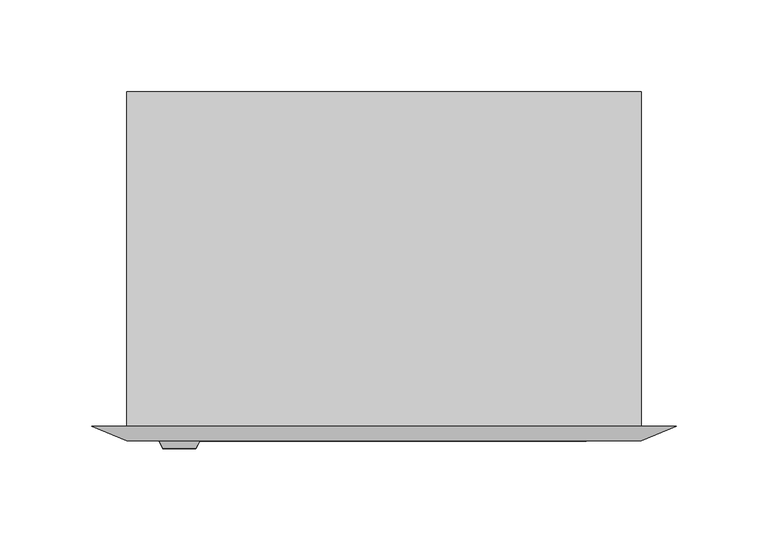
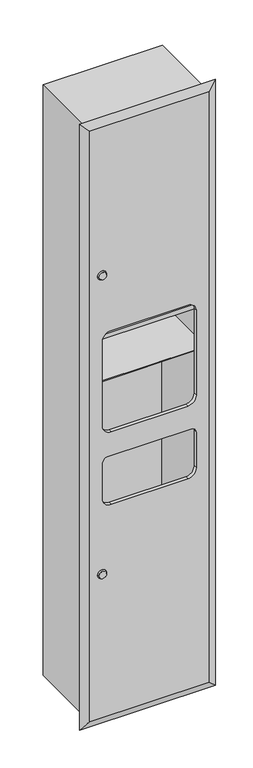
"""IFC4 building model written with IfcOpenShell, lengths in millimetres: proxy geometry, Hand Dryer_3 In 1_Metlam_Eclipse_Recessed : 318w x 190d x 1500h (ML_ECLIPSE_3N1REC_D)."""

from ifc_helpers import new_model, si_unit, frame, origin, place, context, project, spatial, polyline, circle_curve, source, transform, mapped, element, save
from ifc_brep_helpers import plane_surface, revolved_surface, advanced_brep


def specialty_equipment_d3429dd2(model_context):
    return source(origin(), model_context, "Body", "AdvancedBrep", [
        advanced_brep(
        [(-136.0, -182.0, 1100.0), (-136.0, -104.0, 1100.0), (136.0, -104.0, 1100.0), (136.0, -182.0, 1100.0), (138.0, -182.0, 1100.0), (138.0, -102.0, 1100.0), (-138.0, -102.0, 1100.0), (-138.0, -182.0, 1100.0), (-138.0, -102.0, 950.0), (138.0, -102.0, 950.0), (138.0, -182.0, 950.0), (110.0, -182.0, 950.0), (-110.0, -182.0, 950.0), (-138.0, -182.0, 950.0), (-110.0, -122.0, 950.0), (-110.0, -162.0, 950.0), (110.0, -162.0, 950.0), (110.0, -122.0, 950.0), (-136.0, -182.0, 960.0), (-136.0, -104.0, 960.0), (136.0, -104.0, 960.0), (136.0, -182.0, 960.0), (138.0, -102.0, 960.0), (-138.0, -102.0, 960.0), (-107.3205081, -182.0, 960.0), (107.3205081, -182.0, 960.0), (-110.0, -122.0, 960.0), (110.0, -122.0, 960.0), (110.0, -162.0, 960.0), (-110.0, -162.0, 960.0), (-140.0, 0.0, 1481.0), (140.0, 0.0, 1481.0), (140.0, 0.0, 19.0), (-140.0, 0.0, 19.0), (120.0730198, 0.0, 870.0269416), (130.0730198, 0.0, 870.0269416), (-140.0, -2.0, 19.0), (-140.0, -182.0, 19.0), (-140.0, -182.0, 845.0), (-140.0, -182.0, 847.0), (-140.0, -182.0, 1481.0), (-140.0, -2.0, 1481.0), (140.0, -2.0, 19.0), (140.0, -182.0, 19.0), (140.0, -2.0, 1481.0), (140.0, -182.0, 1481.0), (140.0, -182.0, 847.0), (140.0, -182.0, 845.0), (138.0, -182.0, 1479.0), (-138.0, -182.0, 1479.0), (-138.0, -2.0, 1479.0), (138.0, -2.0, 1479.0), (138.0, -2.0, 847.0), (138.0, -182.0, 847.0), (138.0, -2.0, 21.0), (138.0, -182.0, 21.0), (138.0, -182.0, 845.0), (138.0, -2.0, 845.0), (-138.0, -182.0, 21.0), (-138.0, -2.0, 21.0), (-138.0, -2.0, 845.0), (-138.0, -182.0, 845.0), (-138.0, -182.0, 847.0), (-138.0, -2.0, 847.0), (130.0730198, -2.0, 870.0269416), (120.0730198, -2.0, 870.0269416), (140.0, -190.0, 1481.0), (-140.0, -190.0, 1481.0), (-140.0, -190.0, 19.0), (140.0, -190.0, 19.0), (-110.0, -190.0, 950.0), (-90.0, -190.0, 970.0), (90.0, -190.0, 970.0), (110.0, -190.0, 950.0), (110.0, -190.0, 740.0), (90.0, -190.0, 720.0), (-90.0, -190.0, 720.0), (-110.0, -190.0, 740.0), (-110.0, -190.0, 648.0), (-98.0, -190.0, 660.0), (98.0, -190.0, 660.0), (110.0, -190.0, 648.0), (110.0, -190.0, 560.0), (90.0, -190.0, 540.0), (-90.0, -190.0, 540.0), (-110.0, -190.0, 560.0), (110.0, -182.0, 847.0), (-110.0, -182.0, 847.0), (159.0, -182.0, 1500.0), (159.0, -182.0, 0.0), (-159.0, -182.0, 0.0), (-159.0, -182.0, 1500.0), (-110.0, -182.0, 740.0), (-90.0, -182.0, 720.0), (90.0, -182.0, 720.0), (110.0, -182.0, 740.0), (110.0, -182.0, 845.0), (-110.0, -182.0, 845.0), (-98.0, -182.0, 660.0), (-110.0, -182.0, 648.0), (-110.0, -182.0, 560.0), (-90.0, -182.0, 540.0), (90.0, -182.0, 540.0), (110.0, -182.0, 560.0), (110.0, -182.0, 648.0), (98.0, -182.0, 660.0), (90.0, -182.0, 970.0), (-90.0, -182.0, 970.0)],
        [
            (0, 1),
            (1, 2),
            (2, 3),
            (3, 4),
            (4, 5),
            (5, 6),
            (6, 7),
            (7, 0),
            (8, 9),
            (9, 10),
            (10, 11),
            (11, 12),
            (12, 13),
            (13, 8),
            (14, 15),
            (15, 16),
            (16, 17),
            (17, 14),
            (0, 18),
            (18, 19),
            (19, 1),
            (19, 20),
            (20, 2),
            (20, 21),
            (21, 3),
            (5, 22),
            (22, 9),
            (8, 23),
            (23, 6),
            (24, 25),
            (25, 21),
            (18, 24),
            (26, 27),
            (27, 28),
            (28, 29),
            (29, 26),
            (11, 25, circle_curve(frame((90.0, -182.0, 950.0), z_axis=(0.0, -1.0, 0.0), x_axis=(1.0, 0.0, 0.0)), 20.0)),
            (24, 12, circle_curve(frame((-90.0, -182.0, 950.0), z_axis=(0.0, -1.0, 0.0), x_axis=(1.0, 0.0, 0.0)), 20.0)),
            (26, 14),
            (17, 27),
            (16, 28),
            (15, 29),
            (30, 31),
            (31, 32),
            (32, 33),
            (33, 30),
            (34, 35, circle_curve(frame((125.0730198, 0.0, 870.0269416), z_axis=(0.0, -1.0, 0.0), x_axis=(1.0, 0.0, 0.0)), 5.0)),
            (35, 34, circle_curve(frame((125.0730198, 0.0, 870.0269416), z_axis=(0.0, -1.0, 0.0), x_axis=(1.0, 0.0, 0.0)), 5.0)),
            (33, 36),
            (36, 37),
            (37, 38),
            (38, 39),
            (39, 40),
            (40, 41),
            (41, 30),
            (32, 42),
            (42, 43),
            (43, 37),
            (31, 44),
            (44, 45),
            (45, 46),
            (46, 47),
            (47, 43),
            (40, 45),
            (48, 49),
            (49, 50),
            (50, 51),
            (51, 48),
            (4, 48),
            (51, 52),
            (52, 53),
            (53, 10),
            (54, 55),
            (55, 56),
            (56, 57),
            (57, 54),
            (58, 55),
            (54, 59),
            (59, 58),
            (59, 60),
            (60, 61),
            (61, 58),
            (49, 7),
            (13, 62),
            (62, 63),
            (63, 50),
            (63, 52),
            (64, 65, circle_curve(frame((125.0730198, -2.0, 870.0269416), z_axis=(0.0, 1.0, 0.0), x_axis=(1.0, 0.0, 0.0)), 5.0)),
            (65, 64, circle_curve(frame((125.0730198, -2.0, 870.0269416), z_axis=(0.0, 1.0, 0.0), x_axis=(1.0, 0.0, 0.0)), 5.0)),
            (57, 60),
            (66, 67),
            (67, 68),
            (68, 69),
            (69, 66),
            (70, 71, circle_curve(frame((-90.0, -190.0, 950.0), z_axis=(0.0, 1.0, 0.0), x_axis=(1.0, 0.0, 0.0)), 20.0)),
            (71, 72),
            (72, 73, circle_curve(frame((90.0, -190.0, 950.0), z_axis=(0.0, 1.0, 0.0), x_axis=(1.0, 0.0, 0.0)), 20.0)),
            (73, 74),
            (74, 75, circle_curve(frame((90.0, -190.0, 740.0), z_axis=(0.0, 1.0, 0.0), x_axis=(1.0, 0.0, 0.0)), 20.0)),
            (75, 76),
            (76, 77, circle_curve(frame((-90.0, -190.0, 740.0), z_axis=(0.0, 1.0, 0.0), x_axis=(1.0, 0.0, 0.0)), 20.0)),
            (77, 70),
            (78, 79, circle_curve(frame((-98.0, -190.0, 648.0), z_axis=(0.0, 1.0, 0.0), x_axis=(1.0, 0.0, 0.0)), 12.0)),
            (79, 80),
            (80, 81, circle_curve(frame((98.0, -190.0, 648.0), z_axis=(0.0, 1.0, 0.0), x_axis=(1.0, 0.0, 0.0)), 12.0)),
            (81, 82),
            (82, 83, circle_curve(frame((90.0, -190.0, 560.0), z_axis=(0.0, 1.0, 0.0), x_axis=(1.0, 0.0, 0.0)), 20.0)),
            (83, 84),
            (84, 85, circle_curve(frame((-90.0, -190.0, 560.0), z_axis=(0.0, 1.0, 0.0), x_axis=(1.0, 0.0, 0.0)), 20.0)),
            (85, 78),
            (53, 86),
            (86, 11),
            (12, 87),
            (87, 62),
            (88, 89),
            (89, 90),
            (90, 91),
            (91, 88),
            (92, 93, circle_curve(frame((-90.0, -182.0, 740.0), z_axis=(0.0, -1.0, 0.0), x_axis=(1.0, 0.0, 0.0)), 20.0)),
            (93, 94),
            (94, 95, circle_curve(frame((90.0, -182.0, 740.0), z_axis=(0.0, -1.0, 0.0), x_axis=(1.0, 0.0, 0.0)), 20.0)),
            (95, 96),
            (96, 56),
            (61, 97),
            (97, 92),
            (98, 99, circle_curve(frame((-98.0, -182.0, 648.0), z_axis=(0.0, -1.0, 0.0), x_axis=(1.0, 0.0, 0.0)), 12.0)),
            (99, 100),
            (100, 101, circle_curve(frame((-90.0, -182.0, 560.0), z_axis=(0.0, -1.0, 0.0), x_axis=(1.0, 0.0, 0.0)), 20.0)),
            (101, 102),
            (102, 103, circle_curve(frame((90.0, -182.0, 560.0), z_axis=(0.0, -1.0, 0.0), x_axis=(1.0, 0.0, 0.0)), 20.0)),
            (103, 104),
            (104, 105, circle_curve(frame((98.0, -182.0, 648.0), z_axis=(0.0, -1.0, 0.0), x_axis=(1.0, 0.0, 0.0)), 12.0)),
            (105, 98),
            (106, 107),
            (107, 24, circle_curve(frame((-90.0, -182.0, 950.0), z_axis=(0.0, -1.0, 0.0), x_axis=(1.0, 0.0, 0.0)), 20.0)),
            (25, 106, circle_curve(frame((90.0, -182.0, 950.0), z_axis=(0.0, -1.0, 0.0), x_axis=(1.0, 0.0, 0.0)), 20.0)),
            (66, 88),
            (91, 67),
            (90, 68),
            (89, 69),
            (70, 12),
            (107, 71),
            (77, 92),
            (97, 87),
            (76, 93),
            (75, 94),
            (74, 95),
            (73, 11),
            (86, 96),
            (72, 106),
            (78, 99),
            (98, 79),
            (85, 100),
            (84, 101),
            (83, 102),
            (82, 103),
            (81, 104),
            (80, 105),
            (97, 96),
            (86, 87),
            (64, 35),
            (34, 65),
        ],
        [
            plane_surface(frame((-136.0, -182.0, 1100.0), z_axis=(0.0, 0.0, 1.0), x_axis=(0.0, 1.0, 0.0))),
            plane_surface(frame((-136.0, -182.0, 950.0), z_axis=(0.0, 0.0, -1.0), x_axis=(0.0, -1.0, 0.0))),
            plane_surface(frame((-136.0, -182.0, 1100.0), z_axis=(1.0, 0.0, 0.0), x_axis=(0.0, 0.0, -1.0))),
            plane_surface(frame((-136.0, -104.0, 1100.0), z_axis=(0.0, -1.0, 0.0), x_axis=(0.0, 0.0, -1.0))),
            plane_surface(frame((136.0, -104.0, 1100.0), z_axis=(-1.0, 0.0, 0.0), x_axis=(0.0, 0.0, -1.0))),
            plane_surface(frame((138.0, -102.0, 1100.0), z_axis=(0.0, 1.0, 0.0), x_axis=(0.0, 0.0, -1.0))),
            plane_surface(frame((-138.0, -182.0, 960.0), z_axis=(0.0, 0.0, 1.0), x_axis=(0.0, -1.0, 0.0))),
            plane_surface(frame((-138.0, -182.0, 960.0), z_axis=(0.0, -1.0, 0.0), x_axis=(0.0, 0.0, -1.0))),
            plane_surface(frame((-110.0, -122.0, 960.0), z_axis=(0.0, -1.0, 0.0), x_axis=(0.0, 0.0, -1.0))),
            plane_surface(frame((110.0, -122.0, 960.0), z_axis=(-1.0, 0.0, 0.0), x_axis=(0.0, 0.0, -1.0))),
            plane_surface(frame((110.0, -162.0, 960.0), z_axis=(0.0, 1.0, 0.0), x_axis=(0.0, 0.0, -1.0))),
            plane_surface(frame((-110.0, -162.0, 960.0), z_axis=(1.0, 0.0, 0.0), x_axis=(0.0, 0.0, -1.0))),
            plane_surface(frame((-140.0, 0.0, 19.0), z_axis=(0.0, 1.0, 0.0), x_axis=(0.0, 0.0, 1.0))),
            plane_surface(frame((-140.0, -182.0, 1481.0), z_axis=(-1.0, 0.0, 0.0), x_axis=(0.0, 1.0, 0.0))),
            plane_surface(frame((-140.0, -182.0, 19.0), z_axis=(0.0, 0.0, -1.0), x_axis=(0.0, 1.0, 0.0))),
            plane_surface(frame((140.0, -182.0, 19.0), z_axis=(1.0, 0.0, 0.0), x_axis=(0.0, 1.0, 0.0))),
            plane_surface(frame((140.0, -182.0, 1481.0), z_axis=(0.0, 0.0, 1.0), x_axis=(0.0, 1.0, 0.0))),
            plane_surface(frame((-138.0, -182.0, 1479.0), z_axis=(0.0, 0.0, -1.0), x_axis=(0.0, 1.0, 0.0))),
            plane_surface(frame((138.0, -182.0, 1479.0), z_axis=(-1.0, 0.0, 0.0), x_axis=(0.0, 1.0, 0.0))),
            plane_surface(frame((138.0, -182.0, 21.0), z_axis=(0.0, 0.0, 1.0), x_axis=(0.0, 1.0, 0.0))),
            plane_surface(frame((-138.0, -182.0, 21.0), z_axis=(1.0, 0.0, 0.0), x_axis=(0.0, 1.0, 0.0))),
            plane_surface(frame((-140.0, -2.0, 19.0), z_axis=(0.0, -1.0, 0.0), x_axis=(0.0, 0.0, -1.0))),
            plane_surface(frame((0.0, -190.0, 750.0), z_axis=(0.0, -1.0, 0.0), x_axis=(-1.0, 0.0, 0.0))),
            plane_surface(frame((0.0, -182.0, 750.0), z_axis=(0.0, 1.0, 0.0), x_axis=(-1.0, 0.0, 0.0))),
            plane_surface(frame((0.0, -182.0, 1500.0), z_axis=(0.0, -0.9216353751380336, 0.38805700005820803), x_axis=(-1.0, 0.0, 0.0))),
            plane_surface(frame((-159.0, -182.0, 750.0), z_axis=(-0.38805700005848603, -0.9216353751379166, 0.0), x_axis=(0.0, 0.0, -1.0))),
            plane_surface(frame((0.0, -182.0, 0.0), z_axis=(0.0, -0.9216353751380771, -0.38805700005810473), x_axis=(1.0, 0.0, 0.0))),
            plane_surface(frame((159.0, -182.0, 750.0), z_axis=(0.38805700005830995, -0.9216353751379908, 0.0), x_axis=(0.0, 0.0, 1.0))),
            revolved_surface(polyline([(-70.0, -190.0, 950.0), (-70.0, -182.0, 950.0)]), (-90.0, -182.0, 950.0), (0.0, -1.0, 0.0)),
            plane_surface(frame((-110.0, -190.0, 950.0), z_axis=(1.0, 0.0, 0.0), x_axis=(0.0, 1.0, 0.0))),
            revolved_surface(polyline([(-70.0, -190.0, 740.0), (-70.0, -182.0, 740.0)]), (-90.0, -182.0, 740.0), (0.0, -1.0, 0.0)),
            plane_surface(frame((-90.0, -190.0, 720.0), z_axis=(0.0, 0.0, 1.0), x_axis=(0.0, 1.0, 0.0))),
            revolved_surface(polyline([(110.0, -190.0, 740.0), (110.0, -182.0, 740.0)]), (90.0, -182.0, 740.0), (0.0, -1.0, 0.0)),
            plane_surface(frame((110.0, -190.0, 740.0), z_axis=(-1.0, 0.0, 0.0), x_axis=(0.0, 1.0, 0.0))),
            revolved_surface(polyline([(110.0, -190.0, 950.0), (110.0, -182.0, 950.0)]), (90.0, -182.0, 950.0), (0.0, -1.0, 0.0)),
            plane_surface(frame((90.0, -190.0, 970.0), z_axis=(0.0, 0.0, -1.0), x_axis=(0.0, 1.0, 0.0))),
            revolved_surface(polyline([(-86.0, -190.0, 648.0), (-86.0, -182.0, 648.0)]), (-98.0, -182.0, 648.0), (0.0, -1.0, 0.0)),
            plane_surface(frame((-110.0, -190.0, 648.0), z_axis=(1.0, 0.0, 0.0), x_axis=(0.0, 1.0, 0.0))),
            revolved_surface(polyline([(-70.0, -190.0, 560.0), (-70.0, -182.0, 560.0)]), (-90.0, -182.0, 560.0), (0.0, -1.0, 0.0)),
            plane_surface(frame((-90.0, -190.0, 540.0), z_axis=(0.0, 0.0, 1.0), x_axis=(0.0, 1.0, 0.0))),
            revolved_surface(polyline([(110.0, -190.0, 560.0), (110.0, -182.0, 560.0)]), (90.0, -182.0, 560.0), (0.0, -1.0, 0.0)),
            plane_surface(frame((110.0, -190.0, 560.0), z_axis=(-1.0, 0.0, 0.0), x_axis=(0.0, 1.0, 0.0))),
            revolved_surface(polyline([(110.0, -190.0, 648.0), (110.0, -182.0, 648.0)]), (98.0, -182.0, 648.0), (0.0, -1.0, 0.0)),
            plane_surface(frame((98.0, -190.0, 660.0), z_axis=(0.0, 0.0, -1.0), x_axis=(0.0, 1.0, 0.0))),
            plane_surface(frame((-140.0, -182.0, 845.0), z_axis=(0.0, -1.0, 0.0), x_axis=(0.0, 0.0, -1.0))),
            plane_surface(frame((-140.0, -182.0, 845.0), z_axis=(0.0, 0.0, -1.0), x_axis=(0.0, 1.0, 0.0))),
            plane_surface(frame((140.0, -182.0, 847.0), z_axis=(0.0, 0.0, 1.0), x_axis=(0.0, 1.0, 0.0))),
            revolved_surface(polyline([(130.0730198, -2.0, 870.0269416), (130.0730198, 0.0, 870.0269416)]), (125.0730198, 0.0, 870.0269416), (0.0, -1.0, 0.0)),
        ],
        [
            (0, [[1, 2, 3, 4, 5, 6, 7, 8]]),
            (1, [[9, 10, 11, 12, 13, 14], [15, 16, 17, 18]]),
            (2, [[-1, 19, 20, 21]]),
            (3, [[-2, -21, 22, 23]]),
            (4, [[-3, -23, 24, 25]]),
            (5, [[-6, 26, 27, -9, 28, 29]]),
            (6, [[30, 31, -24, -22, -20, 32], [33, 34, 35, 36]]),
            (7, [[-12, 37, -30, 38]]),
            (8, [[-33, 39, -18, 40]]),
            (9, [[-34, -40, -17, 41]]),
            (10, [[-35, -41, -16, 42]]),
            (11, [[-36, -42, -15, -39]]),
            (12, [[43, 44, 45, 46], [47, 48]]),
            (13, [[-46, 49, 50, 51, 52, 53, 54, 55]]),
            (14, [[-45, 56, 57, 58, -50, -49]]),
            (15, [[-44, 59, 60, 61, 62, 63, -57, -56]]),
            (16, [[-43, -55, -54, 64, -60, -59]]),
            (17, [[65, 66, 67, 68]]),
            (18, [[69, -68, 70, 71, 72, -10, -27, -26, -5]]),
            (18, [[73, 74, 75, 76]]),
            (19, [[77, -73, 78, 79]]),
            (20, [[-79, 80, 81, 82]]),
            (20, [[83, -7, -29, -28, -14, 84, 85, 86, -66]]),
            (21, [[-67, -86, 87, -70], [88, 89]]),
            (21, [[-78, -76, 90, -80]]),
            (22, [[91, 92, 93, 94], [95, 96, 97, 98, 99, 100, 101, 102], [103, 104, 105, 106, 107, 108, 109, 110]]),
            (23, [[-11, -72, 111, 112]]),
            (23, [[-13, 113, 114, -84]]),
            (23, [[115, 116, 117, 118], [-58, -63, -62, -61, -64, -53, -52, -51]]),
            (23, [[119, 120, 121, 122, 123, -74, -77, -82, 124, 125], [126, 127, 128, 129, 130, 131, 132, 133]]),
            (23, [[134, 135, -32, -19, -8, -83, -65, -69, -4, -25, -31, 136]]),
            (24, [[-91, 137, -118, 138]]),
            (25, [[-92, -138, -117, 139]]),
            (26, [[-93, -139, -116, 140]]),
            (27, [[-94, -140, -115, -137]]),
            (28, [[141, -38, -135, 142, -95]]),
            (29, [[-141, -102, 143, -125, 144, -113]]),
            (30, [[-143, -101, 145, -119]]),
            (31, [[-145, -100, 146, -120]]),
            (32, [[-146, -99, 147, -121]]),
            (33, [[-147, -98, 148, -112, 149, -122]]),
            (34, [[-148, -97, 150, -136, -37]]),
            (35, [[-142, -134, -150, -96]]),
            (36, [[151, -126, 152, -103]]),
            (37, [[-151, -110, 153, -127]]),
            (38, [[-153, -109, 154, -128]]),
            (39, [[-154, -108, 155, -129]]),
            (40, [[-155, -107, 156, -130]]),
            (41, [[-156, -106, 157, -131]]),
            (42, [[-157, -105, 158, -132]]),
            (43, [[-152, -133, -158, -104]]),
            (44, [[159, -149, 160, -144]]),
            (45, [[-159, -124, -81, -90, -75, -123]]),
            (46, [[-160, -111, -71, -87, -85, -114]]),
            (47, [[161, -47, 162, -88]]),
            (47, [[-161, -89, -162, -48]]),
        ],
    ),
        advanced_brep(
        [(-120.3298003, -194.0, 1114.8885416), (-102.3298003, -194.0, 1114.8885416), (-122.3298003, -190.0, 1114.8885416), (-100.3298003, -190.0, 1114.8885416)],
        [
            (0, 1, circle_curve(frame((-111.3298003, -194.0, 1114.8885416), z_axis=(0.0, -1.0, 0.0), x_axis=(-1.0, 0.0, 0.0)), 9.0)),
            (1, 0, circle_curve(frame((-111.3298003, -194.0, 1114.8885416), z_axis=(0.0, -1.0, 0.0), x_axis=(1.0, 0.0, 0.0)), 9.0)),
            (2, 3, circle_curve(frame((-111.3298003, -190.0, 1114.8885416), z_axis=(0.0, 1.0, 0.0), x_axis=(1.0, 0.0, 0.0)), 11.0)),
            (3, 2, circle_curve(frame((-111.3298003, -190.0, 1114.8885416), z_axis=(0.0, 1.0, 0.0), x_axis=(-1.0, 0.0, 0.0)), 11.0)),
            (2, 0),
            (1, 3),
        ],
        [
            plane_surface(frame((-111.3298003, -194.0, 1114.8885416), z_axis=(0.0, -1.0, 0.0), x_axis=(0.0, 0.0, -1.0))),
            plane_surface(frame((-111.3298003, -190.0, 1114.8885416), z_axis=(0.0, 1.0, 0.0), x_axis=(0.0, 0.0, -1.0))),
            revolved_surface(polyline([(-102.3298003, -194.0, 1114.8885416), (-100.3298003, -190.0, 1114.8885416)]), (-111.3298003, -212.0, 1114.8885416), (0.0, 1.0, 0.0)),
            revolved_surface(polyline([(-120.3298003, -194.0, 1114.8885416), (-122.3298003, -190.0, 1114.8885416)]), (-111.3298003, -212.0, 1114.8885416), (0.0, 1.0, 0.0)),
        ],
        [
            (0, [[1, 2]]),
            (1, [[3, 4]]),
            (2, [[-3, 5, -2, 6]]),
            (3, [[-4, -6, -1, -5]]),
        ],
    ),
        advanced_brep(
        [(-120.3298003, -194.0, 375.1114584), (-102.3298003, -194.0, 375.1114584), (-122.3298003, -190.0, 375.1114584), (-100.3298003, -190.0, 375.1114584)],
        [
            (0, 1, circle_curve(frame((-111.3298003, -194.0, 375.1114584), z_axis=(0.0, -1.0, 0.0), x_axis=(-1.0, 0.0, 0.0)), 9.0)),
            (1, 0, circle_curve(frame((-111.3298003, -194.0, 375.1114584), z_axis=(0.0, -1.0, 0.0), x_axis=(1.0, 0.0, 0.0)), 9.0)),
            (2, 3, circle_curve(frame((-111.3298003, -190.0, 375.1114584), z_axis=(0.0, 1.0, 0.0), x_axis=(1.0, 0.0, 0.0)), 11.0)),
            (3, 2, circle_curve(frame((-111.3298003, -190.0, 375.1114584), z_axis=(0.0, 1.0, 0.0), x_axis=(-1.0, 0.0, 0.0)), 11.0)),
            (3, 1),
            (0, 2),
        ],
        [
            plane_surface(frame((-111.3298003, -194.0, 375.1114584), z_axis=(0.0, -1.0, 0.0), x_axis=(0.0, 0.0, -1.0))),
            plane_surface(frame((-111.3298003, -190.0, 375.1114584), z_axis=(0.0, 1.0, 0.0), x_axis=(0.0, 0.0, -1.0))),
            revolved_surface(polyline([(-120.3298003, -194.0, 375.1114584), (-122.3298003, -190.0, 375.1114584)]), (-111.3298003, -212.0, 375.1114584), (0.0, 1.0, 0.0)),
            revolved_surface(polyline([(-102.3298003, -194.0, 375.1114584), (-100.3298003, -190.0, 375.1114584)]), (-111.3298003, -212.0, 375.1114584), (0.0, 1.0, 0.0)),
        ],
        [
            (0, [[1, 2]]),
            (1, [[3, 4]]),
            (2, [[-4, 5, -1, 6]]),
            (3, [[-3, -6, -2, -5]]),
        ],
    ),
    ])


if __name__ == "__main__":
    model = new_model("IFC4")
    model_context = context("Model", 3, world=origin())
    ifc_project = project(units=[si_unit("LENGTHUNIT", "METRE", prefix="MILLI")], contexts=[model_context])
    site = spatial("IfcSite", under=ifc_project)
    building = spatial("IfcBuilding", under=site)
    placement = place(None, origin())
    specialty_equipment_shape = specialty_equipment_d3429dd2(model_context)
    element("IfcBuildingElementProxy", 1, Name="Hand Dryer_3 In 1_Metlam_Eclipse_Recessed : 318w x 190d x 1500h (ML_ECLIPSE_3N1REC_D)", ObjectType="Hand Dryer_3 In 1_Metlam_Eclipse_Recessed : 318w x 190d x 1500h (ML_ECLIPSE_3N1REC_D)", at=placement, inside=building, context=model_context, shape_type="MappedRepresentation", body=[
        mapped(specialty_equipment_shape, transform((0.0, 0.0, 0.0), x_axis=(1.0, 0.0, 0.0), y_axis=(0.0, 1.0, 0.0), z_axis=(0.0, 0.0, 1.0))),
    ])
    save(model, "model.ifc")
